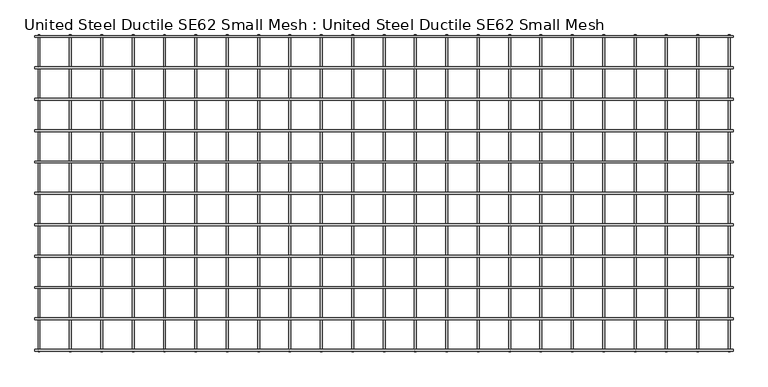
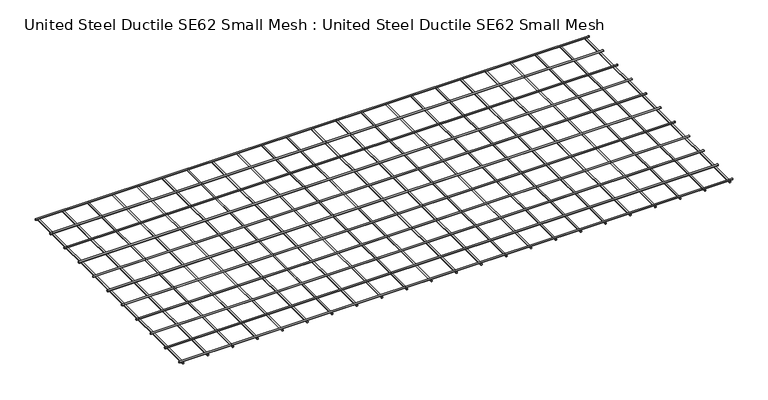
"""IFC4 building model written with IfcOpenShell, lengths in millimetres: proxy geometry, United Steel Ductile SE62 Small Mesh : United Steel Ductile SE62 Small Mesh."""

from ifc_helpers import new_model, si_unit, point, frame, frame_2d, origin, origin_2d, place, context, project, spatial, circle_curve, trimmed, segment, composite_curve, outline, extrude, source, transform, mapped, element, save


def united_steel_ductile_se62_small_mesh_united_steel_ductile_7dd08e2a(model_context):
    return source(origin(), model_context, "Body", "SweptSolid", [
        extrude(outline(composite_curve([segment(trimmed(circle_curve(frame_2d((-1810.0033064, 12.1298355)), 6.1), [point((-1816.1033064, 12.1298355))], [point((-1803.9033064, 12.1298355))], False, "CARTESIAN"), True, "CONTINUOUS"), segment(trimmed(circle_curve(frame_2d((-1810.0033064, 12.1298355)), 6.1), [point((-1803.9033064, 12.1298355))], [point((-1816.1033064, 12.1298355))], False, "CARTESIAN"), True, "CONTINUOUS")], self_intersect=False)), frame((-4425.0, 0.0, 0.0), z_axis=(1.0, 0.0, 0.0), x_axis=(0.0, 1.0, 0.0)), (0.0, 0.0, 1.0), 4450.0),
        extrude(outline(composite_curve([segment(trimmed(circle_curve(frame_2d((-1610.0033064, 12.1298355)), 6.1), [point((-1616.1033064, 12.1298355))], [point((-1603.9033064, 12.1298355))], False, "CARTESIAN"), True, "CONTINUOUS"), segment(trimmed(circle_curve(frame_2d((-1610.0033064, 12.1298355)), 6.1), [point((-1603.9033064, 12.1298355))], [point((-1616.1033064, 12.1298355))], False, "CARTESIAN"), True, "CONTINUOUS")], self_intersect=False)), frame((-4425.0, 0.0, 0.0), z_axis=(1.0, 0.0, 0.0), x_axis=(0.0, 1.0, 0.0)), (0.0, 0.0, 1.0), 4450.0),
        extrude(outline(composite_curve([segment(trimmed(circle_curve(frame_2d((-1410.0033064, 12.1298355)), 6.1), [point((-1416.1033064, 12.1298355))], [point((-1403.9033064, 12.1298355))], False, "CARTESIAN"), True, "CONTINUOUS"), segment(trimmed(circle_curve(frame_2d((-1410.0033064, 12.1298355)), 6.1), [point((-1403.9033064, 12.1298355))], [point((-1416.1033064, 12.1298355))], False, "CARTESIAN"), True, "CONTINUOUS")], self_intersect=False)), frame((-4425.0, 0.0, 0.0), z_axis=(1.0, 0.0, 0.0), x_axis=(0.0, 1.0, 0.0)), (0.0, 0.0, 1.0), 4450.0),
        extrude(outline(composite_curve([segment(trimmed(circle_curve(frame_2d((-1210.0033064, 12.1298355)), 6.1), [point((-1216.1033064, 12.1298355))], [point((-1203.9033064, 12.1298355))], False, "CARTESIAN"), True, "CONTINUOUS"), segment(trimmed(circle_curve(frame_2d((-1210.0033064, 12.1298355)), 6.1), [point((-1203.9033064, 12.1298355))], [point((-1216.1033064, 12.1298355))], False, "CARTESIAN"), True, "CONTINUOUS")], self_intersect=False)), frame((-4425.0, 0.0, 0.0), z_axis=(1.0, 0.0, 0.0), x_axis=(0.0, 1.0, 0.0)), (0.0, 0.0, 1.0), 4450.0),
        extrude(outline(composite_curve([segment(trimmed(circle_curve(frame_2d((-1010.0033064, 12.1298355)), 6.1), [point((-1016.1033064, 12.1298355))], [point((-1003.9033064, 12.1298355))], False, "CARTESIAN"), True, "CONTINUOUS"), segment(trimmed(circle_curve(frame_2d((-1010.0033064, 12.1298355)), 6.1), [point((-1003.9033064, 12.1298355))], [point((-1016.1033064, 12.1298355))], False, "CARTESIAN"), True, "CONTINUOUS")], self_intersect=False)), frame((-4425.0, 0.0, 0.0), z_axis=(1.0, 0.0, 0.0), x_axis=(0.0, 1.0, 0.0)), (0.0, 0.0, 1.0), 4450.0),
        extrude(outline(composite_curve([segment(trimmed(circle_curve(frame_2d((-810.0033064, 12.1298355)), 6.1), [point((-816.1033064, 12.1298355))], [point((-803.9033064, 12.1298355))], False, "CARTESIAN"), True, "CONTINUOUS"), segment(trimmed(circle_curve(frame_2d((-810.0033064, 12.1298355)), 6.1), [point((-803.9033064, 12.1298355))], [point((-816.1033064, 12.1298355))], False, "CARTESIAN"), True, "CONTINUOUS")], self_intersect=False)), frame((-4425.0, 0.0, 0.0), z_axis=(1.0, 0.0, 0.0), x_axis=(0.0, 1.0, 0.0)), (0.0, 0.0, 1.0), 4450.0),
        extrude(outline(composite_curve([segment(trimmed(circle_curve(frame_2d((-610.0033064, 12.1298355)), 6.1), [point((-616.1033064, 12.1298355))], [point((-603.9033064, 12.1298355))], False, "CARTESIAN"), True, "CONTINUOUS"), segment(trimmed(circle_curve(frame_2d((-610.0033064, 12.1298355)), 6.1), [point((-603.9033064, 12.1298355))], [point((-616.1033064, 12.1298355))], False, "CARTESIAN"), True, "CONTINUOUS")], self_intersect=False)), frame((-4425.0, 0.0, 0.0), z_axis=(1.0, 0.0, 0.0), x_axis=(0.0, 1.0, 0.0)), (0.0, 0.0, 1.0), 4450.0),
        extrude(outline(composite_curve([segment(trimmed(circle_curve(frame_2d((-410.0033064, 12.1298355)), 6.1), [point((-416.1033064, 12.1298355))], [point((-403.9033064, 12.1298355))], False, "CARTESIAN"), True, "CONTINUOUS"), segment(trimmed(circle_curve(frame_2d((-410.0033064, 12.1298355)), 6.1), [point((-403.9033064, 12.1298355))], [point((-416.1033064, 12.1298355))], False, "CARTESIAN"), True, "CONTINUOUS")], self_intersect=False)), frame((-4425.0, 0.0, 0.0), z_axis=(1.0, 0.0, 0.0), x_axis=(0.0, 1.0, 0.0)), (0.0, 0.0, 1.0), 4450.0),
        extrude(outline(composite_curve([segment(trimmed(circle_curve(frame_2d((-210.0033064, 12.1298355)), 6.1), [point((-216.1033064, 12.1298355))], [point((-203.9033064, 12.1298355))], False, "CARTESIAN"), True, "CONTINUOUS"), segment(trimmed(circle_curve(frame_2d((-210.0033064, 12.1298355)), 6.1), [point((-203.9033064, 12.1298355))], [point((-216.1033064, 12.1298355))], False, "CARTESIAN"), True, "CONTINUOUS")], self_intersect=False)), frame((-4425.0, 0.0, 0.0), z_axis=(1.0, 0.0, 0.0), x_axis=(0.0, 1.0, 0.0)), (0.0, 0.0, 1.0), 4450.0),
        extrude(outline(composite_curve([segment(trimmed(circle_curve(frame_2d((-2010.0033064, 12.1298355)), 6.1), [point((-2016.1033064, 12.1298355))], [point((-2003.9033064, 12.1298355))], False, "CARTESIAN"), True, "CONTINUOUS"), segment(trimmed(circle_curve(frame_2d((-2010.0033064, 12.1298355)), 6.1), [point((-2003.9033064, 12.1298355))], [point((-2016.1033064, 12.1298355))], False, "CARTESIAN"), True, "CONTINUOUS")], self_intersect=False)), frame((-4425.0, 0.0, 0.0), z_axis=(1.0, 0.0, 0.0), x_axis=(0.0, 1.0, 0.0)), (0.0, 0.0, 1.0), 4450.0),
        extrude(outline(composite_curve([segment(trimmed(circle_curve(frame_2d((-10.0033064, 12.1298355)), 6.1), [point((-16.1033064, 12.1298355))], [point((-3.9033064, 12.1298355))], False, "CARTESIAN"), True, "CONTINUOUS"), segment(trimmed(circle_curve(frame_2d((-10.0033064, 12.1298355)), 6.1), [point((-3.9033064, 12.1298355))], [point((-16.1033064, 12.1298355))], False, "CARTESIAN"), True, "CONTINUOUS")], self_intersect=False)), frame((-4425.0, 0.0, 0.0), z_axis=(1.0, 0.0, 0.0), x_axis=(0.0, 1.0, 0.0)), (0.0, 0.0, 1.0), 4450.0),
        extrude(outline(composite_curve([segment(trimmed(circle_curve(frame_2d((0.0, -4199.1722823)), 6.1), [point((0.0, -4205.2722823))], [point((0.0, -4193.0722823))], False, "CARTESIAN"), True, "CONTINUOUS"), segment(trimmed(circle_curve(frame_2d((0.0, -4199.1722823)), 6.1), [point((0.0, -4193.0722823))], [point((0.0, -4205.2722823))], False, "CARTESIAN"), True, "CONTINUOUS")], self_intersect=False)), frame((0.0, -2020.0, 0.0), z_axis=(0.0, 1.0, 0.0), x_axis=(0.0, 0.0, 1.0)), (0.0, 0.0, 1.0), 2020.0),
        extrude(outline(composite_curve([segment(trimmed(circle_curve(frame_2d((0.0, -3999.2116975)), 6.1), [point((0.0, -4005.3116975))], [point((0.0, -3993.1116975))], False, "CARTESIAN"), True, "CONTINUOUS"), segment(trimmed(circle_curve(frame_2d((0.0, -3999.2116975)), 6.1), [point((0.0, -3993.1116975))], [point((0.0, -4005.3116975))], False, "CARTESIAN"), True, "CONTINUOUS")], self_intersect=False)), frame((0.0, -2020.0, 0.0), z_axis=(0.0, 1.0, 0.0), x_axis=(0.0, 0.0, 1.0)), (0.0, 0.0, 1.0), 2020.0),
        extrude(outline(composite_curve([segment(trimmed(circle_curve(frame_2d((0.0, -3799.2511126)), 6.1), [point((0.0, -3805.3511126))], [point((0.0, -3793.1511126))], False, "CARTESIAN"), True, "CONTINUOUS"), segment(trimmed(circle_curve(frame_2d((0.0, -3799.2511126)), 6.1), [point((0.0, -3793.1511126))], [point((0.0, -3805.3511126))], False, "CARTESIAN"), True, "CONTINUOUS")], self_intersect=False)), frame((0.0, -2020.0, 0.0), z_axis=(0.0, 1.0, 0.0), x_axis=(0.0, 0.0, 1.0)), (0.0, 0.0, 1.0), 2020.0),
        extrude(outline(composite_curve([segment(trimmed(circle_curve(frame_2d((0.0, -3599.2905277)), 6.1), [point((0.0, -3605.3905277))], [point((0.0, -3593.1905277))], False, "CARTESIAN"), True, "CONTINUOUS"), segment(trimmed(circle_curve(frame_2d((0.0, -3599.2905277)), 6.1), [point((0.0, -3593.1905277))], [point((0.0, -3605.3905277))], False, "CARTESIAN"), True, "CONTINUOUS")], self_intersect=False)), frame((0.0, -2020.0, 0.0), z_axis=(0.0, 1.0, 0.0), x_axis=(0.0, 0.0, 1.0)), (0.0, 0.0, 1.0), 2020.0),
        extrude(outline(composite_curve([segment(trimmed(circle_curve(frame_2d((0.0, -3399.3299428)), 6.1), [point((0.0, -3405.4299428))], [point((0.0, -3393.2299428))], False, "CARTESIAN"), True, "CONTINUOUS"), segment(trimmed(circle_curve(frame_2d((0.0, -3399.3299428)), 6.1), [point((0.0, -3393.2299428))], [point((0.0, -3405.4299428))], False, "CARTESIAN"), True, "CONTINUOUS")], self_intersect=False)), frame((0.0, -2020.0, 0.0), z_axis=(0.0, 1.0, 0.0), x_axis=(0.0, 0.0, 1.0)), (0.0, 0.0, 1.0), 2020.0),
        extrude(outline(composite_curve([segment(trimmed(circle_curve(frame_2d((0.0, -3199.369358)), 6.1), [point((0.0, -3205.469358))], [point((0.0, -3193.269358))], False, "CARTESIAN"), True, "CONTINUOUS"), segment(trimmed(circle_curve(frame_2d((0.0, -3199.369358)), 6.1), [point((0.0, -3193.269358))], [point((0.0, -3205.469358))], False, "CARTESIAN"), True, "CONTINUOUS")], self_intersect=False)), frame((0.0, -2020.0, 0.0), z_axis=(0.0, 1.0, 0.0), x_axis=(0.0, 0.0, 1.0)), (0.0, 0.0, 1.0), 2020.0),
        extrude(outline(composite_curve([segment(trimmed(circle_curve(frame_2d((0.0, -2999.4087731)), 6.1), [point((0.0, -3005.5087731))], [point((0.0, -2993.3087731))], False, "CARTESIAN"), True, "CONTINUOUS"), segment(trimmed(circle_curve(frame_2d((0.0, -2999.4087731)), 6.1), [point((0.0, -2993.3087731))], [point((0.0, -3005.5087731))], False, "CARTESIAN"), True, "CONTINUOUS")], self_intersect=False)), frame((0.0, -2020.0, 0.0), z_axis=(0.0, 1.0, 0.0), x_axis=(0.0, 0.0, 1.0)), (0.0, 0.0, 1.0), 2020.0),
        extrude(outline(composite_curve([segment(trimmed(circle_curve(frame_2d((0.0, -2799.4481882)), 6.1), [point((0.0, -2805.5481882))], [point((0.0, -2793.3481882))], False, "CARTESIAN"), True, "CONTINUOUS"), segment(trimmed(circle_curve(frame_2d((0.0, -2799.4481882)), 6.1), [point((0.0, -2793.3481882))], [point((0.0, -2805.5481882))], False, "CARTESIAN"), True, "CONTINUOUS")], self_intersect=False)), frame((0.0, -2020.0, 0.0), z_axis=(0.0, 1.0, 0.0), x_axis=(0.0, 0.0, 1.0)), (0.0, 0.0, 1.0), 2020.0),
        extrude(outline(composite_curve([segment(trimmed(circle_curve(frame_2d((0.0, -2599.4876033)), 6.1), [point((0.0, -2605.5876033))], [point((0.0, -2593.3876033))], False, "CARTESIAN"), True, "CONTINUOUS"), segment(trimmed(circle_curve(frame_2d((0.0, -2599.4876033)), 6.1), [point((0.0, -2593.3876033))], [point((0.0, -2605.5876033))], False, "CARTESIAN"), True, "CONTINUOUS")], self_intersect=False)), frame((0.0, -2020.0, 0.0), z_axis=(0.0, 1.0, 0.0), x_axis=(0.0, 0.0, 1.0)), (0.0, 0.0, 1.0), 2020.0),
        extrude(outline(composite_curve([segment(trimmed(circle_curve(frame_2d((0.0, -2399.5270185)), 6.1), [point((0.0, -2405.6270185))], [point((0.0, -2393.4270185))], False, "CARTESIAN"), True, "CONTINUOUS"), segment(trimmed(circle_curve(frame_2d((0.0, -2399.5270185)), 6.1), [point((0.0, -2393.4270185))], [point((0.0, -2405.6270185))], False, "CARTESIAN"), True, "CONTINUOUS")], self_intersect=False)), frame((0.0, -2020.0, 0.0), z_axis=(0.0, 1.0, 0.0), x_axis=(0.0, 0.0, 1.0)), (0.0, 0.0, 1.0), 2020.0),
        extrude(outline(composite_curve([segment(trimmed(circle_curve(frame_2d((0.0, -2199.5664336)), 6.1), [point((0.0, -2205.6664336))], [point((0.0, -2193.4664336))], False, "CARTESIAN"), True, "CONTINUOUS"), segment(trimmed(circle_curve(frame_2d((0.0, -2199.5664336)), 6.1), [point((0.0, -2193.4664336))], [point((0.0, -2205.6664336))], False, "CARTESIAN"), True, "CONTINUOUS")], self_intersect=False)), frame((0.0, -2020.0, 0.0), z_axis=(0.0, 1.0, 0.0), x_axis=(0.0, 0.0, 1.0)), (0.0, 0.0, 1.0), 2020.0),
        extrude(outline(composite_curve([segment(trimmed(circle_curve(frame_2d((0.0, -1999.6058487)), 6.1), [point((0.0, -2005.7058487))], [point((0.0, -1993.5058487))], False, "CARTESIAN"), True, "CONTINUOUS"), segment(trimmed(circle_curve(frame_2d((0.0, -1999.6058487)), 6.1), [point((0.0, -1993.5058487))], [point((0.0, -2005.7058487))], False, "CARTESIAN"), True, "CONTINUOUS")], self_intersect=False)), frame((0.0, -2020.0, 0.0), z_axis=(0.0, 1.0, 0.0), x_axis=(0.0, 0.0, 1.0)), (0.0, 0.0, 1.0), 2020.0),
        extrude(outline(composite_curve([segment(trimmed(circle_curve(frame_2d((0.0, -1799.6452639)), 6.1), [point((0.0, -1805.7452639))], [point((0.0, -1793.5452639))], False, "CARTESIAN"), True, "CONTINUOUS"), segment(trimmed(circle_curve(frame_2d((0.0, -1799.6452639)), 6.1), [point((0.0, -1793.5452639))], [point((0.0, -1805.7452639))], False, "CARTESIAN"), True, "CONTINUOUS")], self_intersect=False)), frame((0.0, -2020.0, 0.0), z_axis=(0.0, 1.0, 0.0), x_axis=(0.0, 0.0, 1.0)), (0.0, 0.0, 1.0), 2020.0),
        extrude(outline(composite_curve([segment(trimmed(circle_curve(frame_2d((0.0, -1599.684679)), 6.1), [point((0.0, -1605.784679))], [point((0.0, -1593.584679))], False, "CARTESIAN"), True, "CONTINUOUS"), segment(trimmed(circle_curve(frame_2d((0.0, -1599.684679)), 6.1), [point((0.0, -1593.584679))], [point((0.0, -1605.784679))], False, "CARTESIAN"), True, "CONTINUOUS")], self_intersect=False)), frame((0.0, -2020.0, 0.0), z_axis=(0.0, 1.0, 0.0), x_axis=(0.0, 0.0, 1.0)), (0.0, 0.0, 1.0), 2020.0),
        extrude(outline(composite_curve([segment(trimmed(circle_curve(frame_2d((0.0, -1399.7240941)), 6.1), [point((0.0, -1405.8240941))], [point((0.0, -1393.6240941))], False, "CARTESIAN"), True, "CONTINUOUS"), segment(trimmed(circle_curve(frame_2d((0.0, -1399.7240941)), 6.1), [point((0.0, -1393.6240941))], [point((0.0, -1405.8240941))], False, "CARTESIAN"), True, "CONTINUOUS")], self_intersect=False)), frame((0.0, -2020.0, 0.0), z_axis=(0.0, 1.0, 0.0), x_axis=(0.0, 0.0, 1.0)), (0.0, 0.0, 1.0), 2020.0),
        extrude(outline(composite_curve([segment(trimmed(circle_curve(frame_2d((0.0, -1199.7635092)), 6.1), [point((0.0, -1205.8635092))], [point((0.0, -1193.6635092))], False, "CARTESIAN"), True, "CONTINUOUS"), segment(trimmed(circle_curve(frame_2d((0.0, -1199.7635092)), 6.1), [point((0.0, -1193.6635092))], [point((0.0, -1205.8635092))], False, "CARTESIAN"), True, "CONTINUOUS")], self_intersect=False)), frame((0.0, -2020.0, 0.0), z_axis=(0.0, 1.0, 0.0), x_axis=(0.0, 0.0, 1.0)), (0.0, 0.0, 1.0), 2020.0),
        extrude(outline(composite_curve([segment(trimmed(circle_curve(frame_2d((0.0, -999.8029244)), 6.1), [point((0.0, -1005.9029244))], [point((0.0, -993.7029244))], False, "CARTESIAN"), True, "CONTINUOUS"), segment(trimmed(circle_curve(frame_2d((0.0, -999.8029244)), 6.1), [point((0.0, -993.7029244))], [point((0.0, -1005.9029244))], False, "CARTESIAN"), True, "CONTINUOUS")], self_intersect=False)), frame((0.0, -2020.0, 0.0), z_axis=(0.0, 1.0, 0.0), x_axis=(0.0, 0.0, 1.0)), (0.0, 0.0, 1.0), 2020.0),
        extrude(outline(composite_curve([segment(trimmed(circle_curve(frame_2d((0.0, -799.8423395)), 6.1), [point((0.0, -805.9423395))], [point((0.0, -793.7423395))], False, "CARTESIAN"), True, "CONTINUOUS"), segment(trimmed(circle_curve(frame_2d((0.0, -799.8423395)), 6.1), [point((0.0, -793.7423395))], [point((0.0, -805.9423395))], False, "CARTESIAN"), True, "CONTINUOUS")], self_intersect=False)), frame((0.0, -2020.0, 0.0), z_axis=(0.0, 1.0, 0.0), x_axis=(0.0, 0.0, 1.0)), (0.0, 0.0, 1.0), 2020.0),
        extrude(outline(composite_curve([segment(trimmed(circle_curve(frame_2d((0.0, -599.8817546)), 6.1), [point((0.0, -605.9817546))], [point((0.0, -593.7817546))], False, "CARTESIAN"), True, "CONTINUOUS"), segment(trimmed(circle_curve(frame_2d((0.0, -599.8817546)), 6.1), [point((0.0, -593.7817546))], [point((0.0, -605.9817546))], False, "CARTESIAN"), True, "CONTINUOUS")], self_intersect=False)), frame((0.0, -2020.0, 0.0), z_axis=(0.0, 1.0, 0.0), x_axis=(0.0, 0.0, 1.0)), (0.0, 0.0, 1.0), 2020.0),
        extrude(outline(composite_curve([segment(trimmed(circle_curve(frame_2d((0.0, -399.9211697)), 6.1), [point((0.0, -406.0211697))], [point((0.0, -393.8211697))], False, "CARTESIAN"), True, "CONTINUOUS"), segment(trimmed(circle_curve(frame_2d((0.0, -399.9211697)), 6.1), [point((0.0, -393.8211697))], [point((0.0, -406.0211697))], False, "CARTESIAN"), True, "CONTINUOUS")], self_intersect=False)), frame((0.0, -2020.0, 0.0), z_axis=(0.0, 1.0, 0.0), x_axis=(0.0, 0.0, 1.0)), (0.0, 0.0, 1.0), 2020.0),
        extrude(outline(composite_curve([segment(trimmed(circle_curve(frame_2d((0.0, -199.9605849)), 6.1), [point((0.0, -206.0605849))], [point((0.0, -193.8605849))], False, "CARTESIAN"), True, "CONTINUOUS"), segment(trimmed(circle_curve(frame_2d((0.0, -199.9605849)), 6.1), [point((0.0, -193.8605849))], [point((0.0, -206.0605849))], False, "CARTESIAN"), True, "CONTINUOUS")], self_intersect=False)), frame((0.0, -2020.0, 0.0), z_axis=(0.0, 1.0, 0.0), x_axis=(0.0, 0.0, 1.0)), (0.0, 0.0, 1.0), 2020.0),
        extrude(outline(composite_curve([segment(trimmed(circle_curve(frame_2d((0.0, -4399.1328672)), 6.1), [point((0.0, -4405.2328672))], [point((0.0, -4393.0328672))], False, "CARTESIAN"), True, "CONTINUOUS"), segment(trimmed(circle_curve(frame_2d((0.0, -4399.1328672)), 6.1), [point((0.0, -4393.0328672))], [point((0.0, -4405.2328672))], False, "CARTESIAN"), True, "CONTINUOUS")], self_intersect=False)), frame((0.0, -2020.0, 0.0), z_axis=(0.0, 1.0, 0.0), x_axis=(0.0, 0.0, 1.0)), (0.0, 0.0, 1.0), 2020.0),
        extrude(outline(composite_curve([segment(trimmed(circle_curve(origin_2d(), 6.1), [point((0.0, -6.1))], [point((0.0, 6.1))], False, "CARTESIAN"), True, "CONTINUOUS"), segment(trimmed(circle_curve(origin_2d(), 6.1), [point((0.0, 6.1))], [point((0.0, -6.1))], False, "CARTESIAN"), True, "CONTINUOUS")], self_intersect=False)), frame((0.0, -2020.0, 0.0), z_axis=(0.0, 1.0, 0.0), x_axis=(0.0, 0.0, 1.0)), (0.0, 0.0, 1.0), 2020.0),
    ])


if __name__ == "__main__":
    model = new_model("IFC4")
    model_context = context("Model", 3, world=origin())
    ifc_project = project(units=[si_unit("LENGTHUNIT", "METRE", prefix="MILLI")], contexts=[model_context])
    site = spatial("IfcSite", under=ifc_project)
    building = spatial("IfcBuilding", under=site)
    placement = place(None, origin())
    united_steel_ductile_se62_small_mesh_united_steel_ductile_shape = united_steel_ductile_se62_small_mesh_united_steel_ductile_7dd08e2a(model_context)
    element("IfcBuildingElementProxy", 1, Name="United Steel Ductile SE62 Small Mesh : United Steel Ductile SE62 Small Mesh", ObjectType="United Steel Ductile SE62 Small Mesh : United Steel Ductile SE62 Small Mesh", at=placement, inside=building, context=model_context, shape_type="MappedRepresentation", body=[
        mapped(united_steel_ductile_se62_small_mesh_united_steel_ductile_shape, transform((0.0, 0.0, 0.0), x_axis=(1.0, 0.0, 0.0), y_axis=(0.0, 1.0, 0.0), z_axis=(0.0, 0.0, 1.0))),
    ])
    save(model, "model.ifc")
